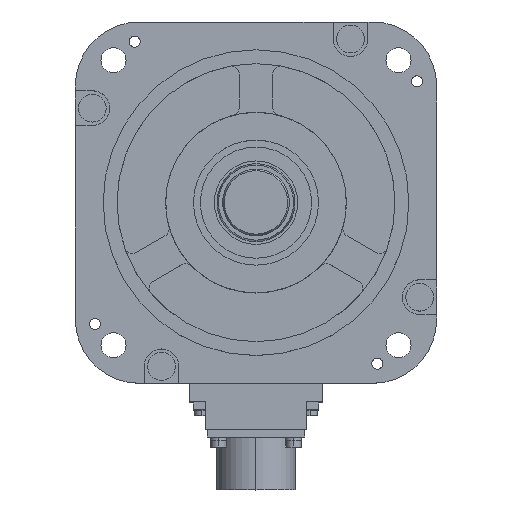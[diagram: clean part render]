
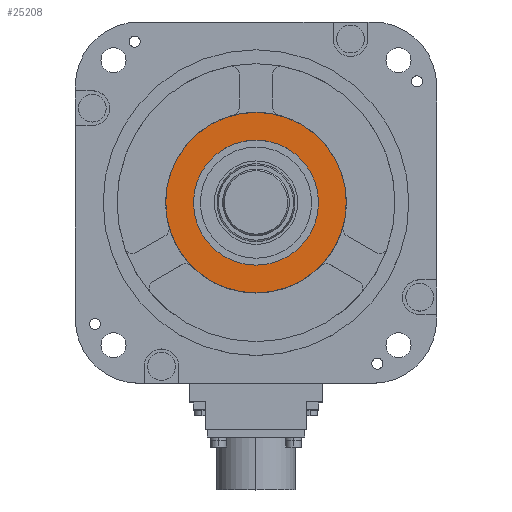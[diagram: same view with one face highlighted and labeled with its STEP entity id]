
A CAD part, top view. The second image highlights one B-rep face of the part: STEP entity #25208.
In plain terms, the highlighted planar face has unit normal (0, 0, 1).
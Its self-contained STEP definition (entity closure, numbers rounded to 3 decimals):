
#891 = AXIS2_PLACEMENT_3D ( 'NONE', #6194, #31110, #11842 ) ;
#1797 = EDGE_CURVE ( 'NONE', #13254, #13004, #12732, .T. ) ;
#3321 = CARTESIAN_POINT ( 'NONE',  ( 0., 0., 6. ) ) ;
#3326 = CARTESIAN_POINT ( 'NONE',  ( 0., 22.5, 6. ) ) ;
#3420 = PLANE ( 'NONE',  #891 ) ;
#4422 = EDGE_CURVE ( 'NONE', #21197, #7304, #21375, .T. ) ;
#4655 = ORIENTED_EDGE ( 'NONE', *, *, #1797, .F. ) ;
#5843 = ORIENTED_EDGE ( 'NONE', *, *, #29167, .T. ) ;
#6194 = CARTESIAN_POINT ( 'NONE',  ( 0., 0., 6. ) ) ;
#6555 = FACE_BOUND ( 'NONE', #7248, .T. ) ;
#6790 = CARTESIAN_POINT ( 'NONE',  ( 0., -22.5, 6. ) ) ;
#7248 = EDGE_LOOP ( 'NONE', ( #5843, #13080 ) ) ;
#7304 = VERTEX_POINT ( 'NONE', #3326 ) ;
#7864 = CARTESIAN_POINT ( 'NONE',  ( 0., 0., 6. ) ) ;
#9274 = ORIENTED_EDGE ( 'NONE', *, *, #17120, .F. ) ;
#9787 = DIRECTION ( 'NONE',  ( 0., 0., -1. ) ) ;
#11117 = CARTESIAN_POINT ( 'NONE',  ( 0., 0., 6. ) ) ;
#11353 = DIRECTION ( 'NONE',  ( 0., 0., -1. ) ) ;
#11842 = DIRECTION ( 'NONE',  ( 1., 0., 0. ) ) ;
#12732 = CIRCLE ( 'NONE', #25737, 32.5 ) ;
#13004 = VERTEX_POINT ( 'NONE', #17586 ) ;
#13080 = ORIENTED_EDGE ( 'NONE', *, *, #4422, .T. ) ;
#13254 = VERTEX_POINT ( 'NONE', #16502 ) ;
#14441 = DIRECTION ( 'NONE',  ( 0., 0., -1. ) ) ;
#16033 = DIRECTION ( 'NONE',  ( 0., 1., 0. ) ) ;
#16449 = AXIS2_PLACEMENT_3D ( 'NONE', #3321, #14441, #27765 ) ;
#16502 = CARTESIAN_POINT ( 'NONE',  ( 0., 32.5, 6. ) ) ;
#17120 = EDGE_CURVE ( 'NONE', #13004, #13254, #23170, .T. ) ;
#17586 = CARTESIAN_POINT ( 'NONE',  ( 0., -32.5, 6. ) ) ;
#18180 = EDGE_LOOP ( 'NONE', ( #4655, #9274 ) ) ;
#21197 = VERTEX_POINT ( 'NONE', #6790 ) ;
#21375 = CIRCLE ( 'NONE', #24666, 22.5 ) ;
#23170 = CIRCLE ( 'NONE', #16449, 32.5 ) ;
#24148 = DIRECTION ( 'NONE',  ( 0., 0., -1. ) ) ;
#24666 = AXIS2_PLACEMENT_3D ( 'NONE', #11117, #11353, #30747 ) ;
#25208 = ADVANCED_FACE ( 'NONE', ( #6555, #35098 ), #3420, .T. ) ;
#25737 = AXIS2_PLACEMENT_3D ( 'NONE', #7864, #9787, #35434 ) ;
#27765 = DIRECTION ( 'NONE',  ( 0., 1., 0. ) ) ;
#29167 = EDGE_CURVE ( 'NONE', #7304, #21197, #32294, .T. ) ;
#29604 = CARTESIAN_POINT ( 'NONE',  ( 0., 0., 6. ) ) ;
#30747 = DIRECTION ( 'NONE',  ( 0., 1., 0. ) ) ;
#30946 = AXIS2_PLACEMENT_3D ( 'NONE', #29604, #24148, #16033 ) ;
#31110 = DIRECTION ( 'NONE',  ( 0., 0., 1. ) ) ;
#32294 = CIRCLE ( 'NONE', #30946, 22.5 ) ;
#35098 = FACE_OUTER_BOUND ( 'NONE', #18180, .T. ) ;
#35434 = DIRECTION ( 'NONE',  ( 0., 1., 0. ) ) ;
